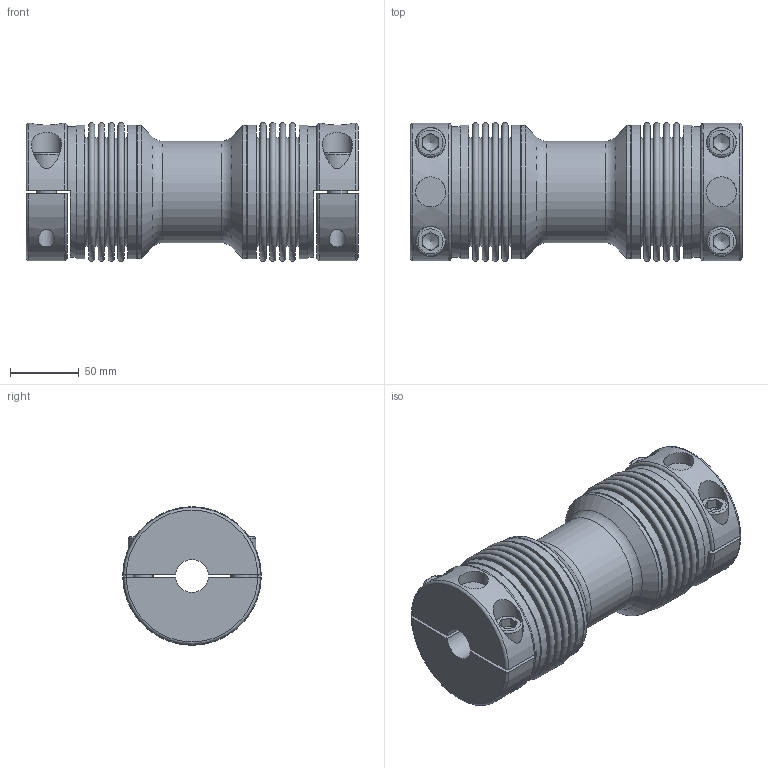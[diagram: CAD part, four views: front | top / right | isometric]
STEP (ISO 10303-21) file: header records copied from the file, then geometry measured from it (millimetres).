
FILE_DESCRIPTION(/* description */ ('Unknown'),/* implementation_level */ '2;1');
FILE_NAME(/* name */ 'WDZ 400',/* time_stamp */ '2020-05-12T08:37:04+03:00',/* author */ ('Unknown'),/* organization */ ('Unknown'),/* preprocessor_version */ 'ST-DEVELOPER v16.7',/* originating_system */ 'DEX',/* authorisation */ $);
FILE_SCHEMA (('AUTOMOTIVE_DESIGN {1 0 10303 214 3 1 1}'));
Length unit declared in the file: millimetre
Products named in the file (1): WDZ 400
Bounding box: 241.99 x 101 x 101 mm (x, y, z)
Volume: 820046.6 mm3; surface area: 308406.8 mm2
Topology: 1 solids, 3 shells, 266 faces, 549 edges, 357 vertices
Faces by surface type: plane 138, torus 64, cylinder 52, cone 12
Full cylindrical faces by diameter (mm): 12 x4, 14 x4, 15 x4, 21 x4, 22 x6, 56 x2, 65 x2, 66 x1, 67 x4, 74 x3, 95.4 x3, 95.411 x1, 97 x2, 97.2 x4
Entity records: 6446 total; most frequent: CARTESIAN_POINT 1285, DIRECTION 1130, ORIENTED_EDGE 792, AXIS2_PLACEMENT_3D 493, FACE_BOUND 460, EDGE_LOOP 456, EDGE_CURVE 396, VERTEX_POINT 320
